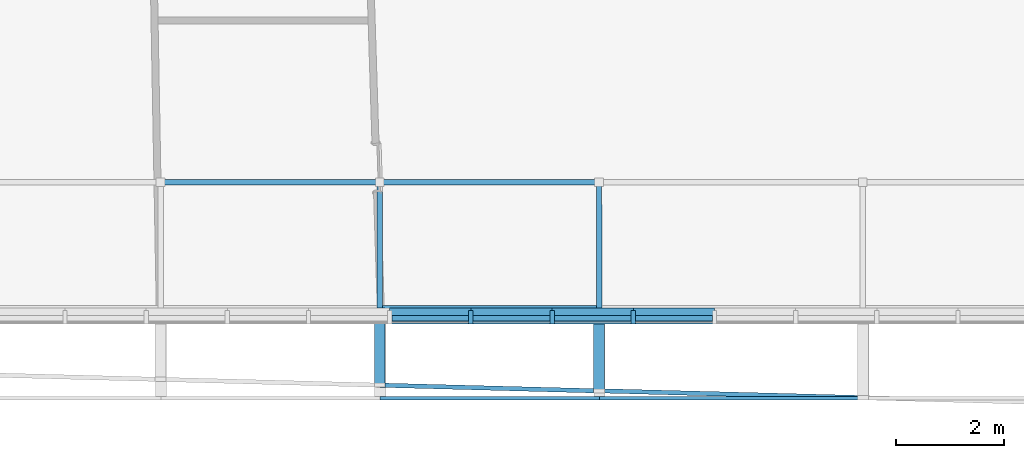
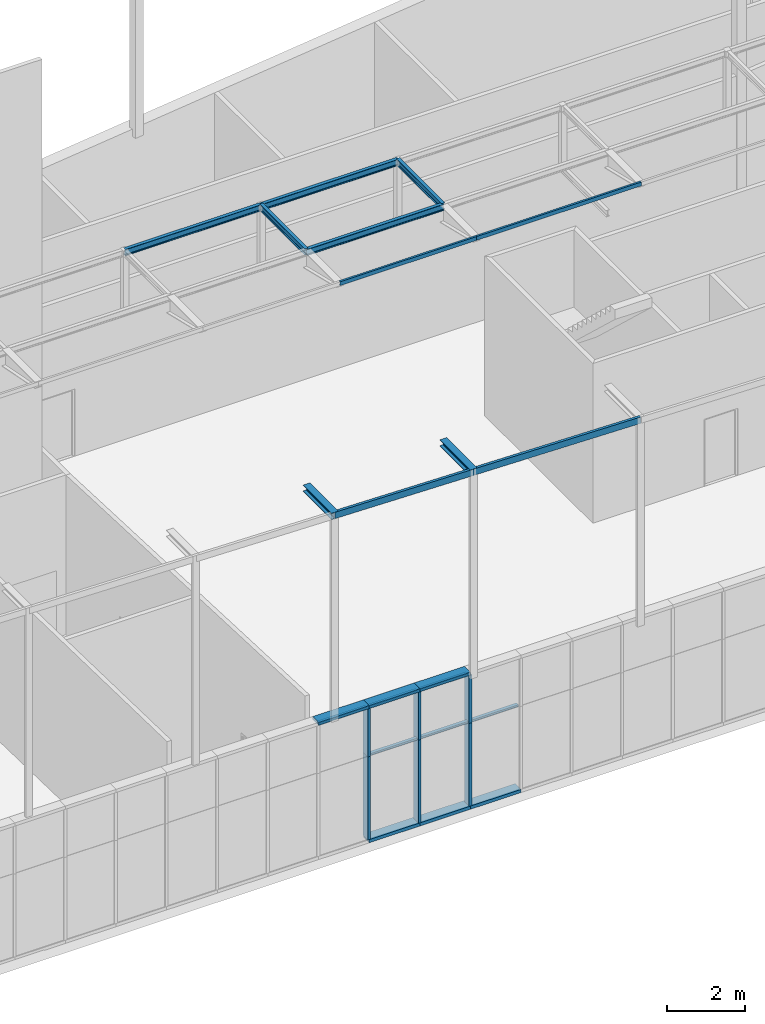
# One storey, part 11 of 40: 18 members, 11 beams, 1 element without a shape of its own.
"""IFC2X3 building model written with IfcOpenShell, lengths in metres."""

from ifc_helpers import new_model, entity, si_unit, converted_unit, money_unit, point, direction, frame, frame_2d, origin_with_axes, place, context, subcontext, project, spatial, polyline, circle_curve, parameter, trimmed, segment, composite_curve, outline, extrude, clip, halfspace, material, type_object, element, aggregate, save


model = new_model("IFC2X3")

# Units and contexts
model_context = context("Model", 3, precision=1e-05, world=origin_with_axes(), true_north=direction((0.0, 1.0)))
body_context = subcontext(model_context, "Body", "Model", "MODEL_VIEW")
ifc_project = project(units=[si_unit("LENGTHUNIT", "METRE"), si_unit("AREAUNIT", "SQUARE_METRE"), si_unit("VOLUMEUNIT", "CUBIC_METRE"), converted_unit("PLANEANGLEUNIT", "DEGREE", entity("IfcPlaneAngleMeasure", 0.0174532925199), si_unit("PLANEANGLEUNIT", "RADIAN"), dimensions=[0, 0, 0, 0, 0, 0, 0]), si_unit("SOLIDANGLEUNIT", "STERADIAN"), money_unit("EUR"), converted_unit("TIMEUNIT", "Year", entity("IfcTimeMeasure", 31556926.0), si_unit("TIMEUNIT", "SECOND"), dimensions=[0, 0, 0, 0, 0, 0, 0]), si_unit("MASSUNIT", "GRAM"), si_unit("THERMODYNAMICTEMPERATUREUNIT", "DEGREE_CELSIUS"), si_unit("LUMINOUSINTENSITYUNIT", "LUMEN")], contexts=[model_context])

# Site, building, storey
site_placement = place(None, origin_with_axes())
site = spatial("IfcSite", under=ifc_project, at=site_placement, Name="Undefined", CompositionType="ELEMENT")
building_placement = place(site_placement, origin_with_axes())
building = spatial("IfcBuilding", under=site, at=building_placement, Name="Undefined", CompositionType="ELEMENT")
storey_placement = place(building_placement, origin_with_axes())
storey = spatial("IfcBuildingStorey", under=building, at=storey_placement, Name="Rez de chauss\x8ee", CompositionType="ELEMENT", Elevation=0.0)

# Beams
ifc_material_1 = material(Name="STEEL/S235JRG2 3386696625")
beam_type_1 = type_object("IfcBeamType", Name="IPE200", PredefinedType="NOTDEFINED")
beam_1_placement = place(storey_placement, frame((33.2999992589, 4.29749319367e-10, 19.02503), z_axis=(0.0, 0.0, 1.0), x_axis=(0.0, -1.0, 0.0)))
element("IfcBeam", 1, at=beam_1_placement, inside=storey, type_object=beam_type_1, material=ifc_material_1, Name="BEAM", ObjectType="BEAM", context=body_context, shape_type="SweptSolid", body=[
    extrude(outline(composite_curve([segment(polyline([(0.05, -0.1), (0.05, -0.0915), (0.0147999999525, -0.0915)]), True, "CONTINUOUS"), segment(trimmed(circle_curve(frame_2d((0.0147999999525, -0.0795), x_axis=(-1.0, 0.0)), 0.012), [point((0.0147999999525, -0.0915)), parameter(90.0)], [point((0.0027999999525, -0.0795)), parameter(0.0)], False, "CARTESIAN"), True, "CONTINUOUS"), segment(polyline([(0.0027999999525, -0.0795), (0.0027999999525, 0.0795)]), True, "CONTINUOUS"), segment(trimmed(circle_curve(frame_2d((0.0147999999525, 0.0795), x_axis=(0.0, 1.0)), 0.012), [point((0.0027999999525, 0.0795)), parameter(90.0)], [point((0.0147999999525, 0.0915)), parameter(0.0)], False, "CARTESIAN"), True, "CONTINUOUS"), segment(polyline([(0.0147999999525, 0.0915), (0.05, 0.0915), (0.05, 0.1), (-0.05, 0.1), (-0.05, 0.0915), (-0.0147999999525, 0.0915)]), True, "CONTINUOUS"), segment(trimmed(circle_curve(frame_2d((-0.0147999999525, 0.0795), x_axis=(1.0, 0.0)), 0.012), [point((-0.0147999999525, 0.0915)), parameter(90.0)], [point((-0.0027999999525, 0.0795)), parameter(0.0)], False, "CARTESIAN"), True, "CONTINUOUS"), segment(polyline([(-0.0027999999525, 0.0795), (-0.0027999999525, -0.0795)]), True, "CONTINUOUS"), segment(trimmed(circle_curve(frame_2d((-0.0147999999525, -0.0795), x_axis=(0.0, -1.0)), 0.012), [point((-0.0027999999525, -0.0795)), parameter(90.0)], [point((-0.0147999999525, -0.0915)), parameter(0.0)], False, "CARTESIAN"), True, "CONTINUOUS"), segment(polyline([(-0.0147999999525, -0.0915), (-0.05, -0.0915), (-0.05, -0.1), (0.05, -0.1)]), True, "CONTINUOUS")], self_intersect=False)), frame((0.0, 4.05, 0.0), z_axis=(0.0, -1.0, 0.0), x_axis=(1.0, 0.0, 0.0)), (0.0, 0.0, 1.0), 4.05),
])
beam_2_placement = place(storey_placement, frame((33.3000000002, 2.3250000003, 19.025), z_axis=(0.0, 0.0, 1.0), x_axis=(0.0, -1.0, 0.0)))
element("IfcBeam", 2, at=beam_2_placement, inside=storey, type_object=beam_type_1, material=ifc_material_1, Name="Poutre", ObjectType="BEAM", context=body_context, shape_type="SweptSolid", body=[
    extrude(outline(composite_curve([segment(polyline([(0.05, -0.1), (0.05, -0.0915), (0.0147999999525, -0.0915)]), True, "CONTINUOUS"), segment(trimmed(circle_curve(frame_2d((0.0147999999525, -0.0795), x_axis=(-1.0, 0.0)), 0.012), [point((0.0147999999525, -0.0915)), parameter(90.0)], [point((0.0027999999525, -0.0795)), parameter(0.0)], False, "CARTESIAN"), True, "CONTINUOUS"), segment(polyline([(0.0027999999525, -0.0795), (0.0027999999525, 0.0795)]), True, "CONTINUOUS"), segment(trimmed(circle_curve(frame_2d((0.0147999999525, 0.0795), x_axis=(0.0, 1.0)), 0.012), [point((0.0027999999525, 0.0795)), parameter(90.0)], [point((0.0147999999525, 0.0915)), parameter(0.0)], False, "CARTESIAN"), True, "CONTINUOUS"), segment(polyline([(0.0147999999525, 0.0915), (0.05, 0.0915), (0.05, 0.1), (-0.05, 0.1), (-0.05, 0.0915), (-0.0147999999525, 0.0915)]), True, "CONTINUOUS"), segment(trimmed(circle_curve(frame_2d((-0.0147999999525, 0.0795), x_axis=(1.0, 0.0)), 0.012), [point((-0.0147999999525, 0.0915)), parameter(90.0)], [point((-0.0027999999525, 0.0795)), parameter(0.0)], False, "CARTESIAN"), True, "CONTINUOUS"), segment(polyline([(-0.0027999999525, 0.0795), (-0.0027999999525, -0.0795)]), True, "CONTINUOUS"), segment(trimmed(circle_curve(frame_2d((-0.0147999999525, -0.0795), x_axis=(0.0, -1.0)), 0.012), [point((-0.0027999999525, -0.0795)), parameter(90.0)], [point((-0.0147999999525, -0.0915)), parameter(0.0)], False, "CARTESIAN"), True, "CONTINUOUS"), segment(polyline([(-0.0147999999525, -0.0915), (-0.05, -0.0915), (-0.05, -0.1), (0.05, -0.1)]), True, "CONTINUOUS")], self_intersect=False)), frame((0.0, 4.04999918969, 0.0), z_axis=(0.0, -1.0, 0.0), x_axis=(1.0, 0.0, 0.0)), (0.0, 0.0, 1.0), 4.04999918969),
])
beam_3_placement = place(storey_placement, frame((33.2999999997, -4.68387313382e-06, 19.02503), z_axis=(0.0, 0.0, 1.0), x_axis=(1.0, 0.0, 0.0)))
element("IfcBeam", 3, at=beam_3_placement, inside=storey, type_object=beam_type_1, material=ifc_material_1, Name="BEAM", ObjectType="BEAM", context=body_context, shape_type="Clipping", body=[
    clip(clip(extrude(outline(composite_curve([segment(polyline([(0.05, -0.1), (0.05, -0.0915), (0.0147999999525, -0.0915)]), True, "CONTINUOUS"), segment(trimmed(circle_curve(frame_2d((0.0147999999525, -0.0795), x_axis=(-1.0, 0.0)), 0.012), [point((0.0147999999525, -0.0915)), parameter(90.0)], [point((0.0027999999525, -0.0795)), parameter(0.0)], False, "CARTESIAN"), True, "CONTINUOUS"), segment(polyline([(0.0027999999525, -0.0795), (0.0027999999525, 0.0795)]), True, "CONTINUOUS"), segment(trimmed(circle_curve(frame_2d((0.0147999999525, 0.0795), x_axis=(0.0, 1.0)), 0.012), [point((0.0027999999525, 0.0795)), parameter(90.0)], [point((0.0147999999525, 0.0915)), parameter(0.0)], False, "CARTESIAN"), True, "CONTINUOUS"), segment(polyline([(0.0147999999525, 0.0915), (0.05, 0.0915), (0.05, 0.1), (-0.05, 0.1), (-0.05, 0.0915), (-0.0147999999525, 0.0915)]), True, "CONTINUOUS"), segment(trimmed(circle_curve(frame_2d((-0.0147999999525, 0.0795), x_axis=(1.0, 0.0)), 0.012), [point((-0.0147999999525, 0.0915)), parameter(90.0)], [point((-0.0027999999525, 0.0795)), parameter(0.0)], False, "CARTESIAN"), True, "CONTINUOUS"), segment(polyline([(-0.0027999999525, 0.0795), (-0.0027999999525, -0.0795)]), True, "CONTINUOUS"), segment(trimmed(circle_curve(frame_2d((-0.0147999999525, -0.0795), x_axis=(0.0, -1.0)), 0.012), [point((-0.0027999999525, -0.0795)), parameter(90.0)], [point((-0.0147999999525, -0.0915)), parameter(0.0)], False, "CARTESIAN"), True, "CONTINUOUS"), segment(polyline([(-0.0147999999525, -0.0915), (-0.05, -0.0915), (-0.05, -0.1), (0.05, -0.1)]), True, "CONTINUOUS")], self_intersect=False)), frame((0.0, 2.32501018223, -2.79001147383e-05), z_axis=(0.0, -0.999999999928, 1.19999967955e-05), x_axis=(1.0, 0.0, 0.0)), (0.0, 0.0, 1.0), 2.32501357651), halfspace(frame((0.0, 3.39411164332e-06, 0.0), z_axis=(0.0, 0.999999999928, -1.19999967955e-05), x_axis=(0.0, 1.19999967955e-05, 0.999999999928)), True)), halfspace(frame((0.0, 2.32500339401, -2.79000332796e-05), z_axis=(0.0, -0.999999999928, 1.19999967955e-05), x_axis=(0.0, -1.19999967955e-05, -0.999999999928)), True)),
])
beam_4_placement = place(storey_placement, frame((29.2499999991, 2.32500000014, 19.025), z_axis=(0.0, 0.0, 1.0), x_axis=(0.0, -1.0, 0.0)))
element("IfcBeam", 4, at=beam_4_placement, inside=storey, type_object=beam_type_1, material=ifc_material_1, Name="Poutre", ObjectType="BEAM", context=body_context, shape_type="SweptSolid", body=[
    extrude(outline(composite_curve([segment(polyline([(0.05, -0.1), (0.05, -0.0915), (0.0147999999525, -0.0915)]), True, "CONTINUOUS"), segment(trimmed(circle_curve(frame_2d((0.0147999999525, -0.0795), x_axis=(-1.0, 0.0)), 0.012), [point((0.0147999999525, -0.0915)), parameter(90.0)], [point((0.0027999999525, -0.0795)), parameter(0.0)], False, "CARTESIAN"), True, "CONTINUOUS"), segment(polyline([(0.0027999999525, -0.0795), (0.0027999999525, 0.0795)]), True, "CONTINUOUS"), segment(trimmed(circle_curve(frame_2d((0.0147999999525, 0.0795), x_axis=(0.0, 1.0)), 0.012), [point((0.0027999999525, 0.0795)), parameter(90.0)], [point((0.0147999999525, 0.0915)), parameter(0.0)], False, "CARTESIAN"), True, "CONTINUOUS"), segment(polyline([(0.0147999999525, 0.0915), (0.05, 0.0915), (0.05, 0.1), (-0.05, 0.1), (-0.05, 0.0915), (-0.0147999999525, 0.0915)]), True, "CONTINUOUS"), segment(trimmed(circle_curve(frame_2d((-0.0147999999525, 0.0795), x_axis=(1.0, 0.0)), 0.012), [point((-0.0147999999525, 0.0915)), parameter(90.0)], [point((-0.0027999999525, 0.0795)), parameter(0.0)], False, "CARTESIAN"), True, "CONTINUOUS"), segment(polyline([(-0.0027999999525, 0.0795), (-0.0027999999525, -0.0795)]), True, "CONTINUOUS"), segment(trimmed(circle_curve(frame_2d((-0.0147999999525, -0.0795), x_axis=(0.0, -1.0)), 0.012), [point((-0.0027999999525, -0.0795)), parameter(90.0)], [point((-0.0147999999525, -0.0915)), parameter(0.0)], False, "CARTESIAN"), True, "CONTINUOUS"), segment(polyline([(-0.0147999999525, -0.0915), (-0.05, -0.0915), (-0.05, -0.1), (0.05, -0.1)]), True, "CONTINUOUS")], self_intersect=False)), frame((0.0, 4.05000000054, 0.0), z_axis=(0.0, -1.0, 0.0), x_axis=(1.0, 0.0, 0.0)), (0.0, 0.0, 1.0), 4.05000000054),
])
beam_5_placement = place(storey_placement, frame((37.3522209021, 0.0, 19.0250000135), z_axis=(0.0, 0.0, 1.0), x_axis=(0.99999954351, 0.000955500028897, 0.0)))
element("IfcBeam", 5, at=beam_5_placement, inside=storey, type_object=beam_type_1, material=ifc_material_1, Name="Poutre", ObjectType="BEAM", context=body_context, shape_type="SweptSolid", body=[
    extrude(outline(composite_curve([segment(polyline([(0.05, -0.1), (0.05, -0.0915), (0.0147999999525, -0.0915)]), True, "CONTINUOUS"), segment(trimmed(circle_curve(frame_2d((0.0147999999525, -0.0795), x_axis=(-1.0, 0.0)), 0.012), [point((0.0147999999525, -0.0915)), parameter(90.0)], [point((0.0027999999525, -0.0795)), parameter(0.0)], False, "CARTESIAN"), True, "CONTINUOUS"), segment(polyline([(0.0027999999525, -0.0795), (0.0027999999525, 0.0795)]), True, "CONTINUOUS"), segment(trimmed(circle_curve(frame_2d((0.0147999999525, 0.0795), x_axis=(0.0, 1.0)), 0.012), [point((0.0027999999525, 0.0795)), parameter(90.0)], [point((0.0147999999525, 0.0915)), parameter(0.0)], False, "CARTESIAN"), True, "CONTINUOUS"), segment(polyline([(0.0147999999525, 0.0915), (0.05, 0.0915), (0.05, 0.1), (-0.05, 0.1), (-0.05, 0.0915), (-0.0147999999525, 0.0915)]), True, "CONTINUOUS"), segment(trimmed(circle_curve(frame_2d((-0.0147999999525, 0.0795), x_axis=(1.0, 0.0)), 0.012), [point((-0.0147999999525, 0.0915)), parameter(90.0)], [point((-0.0027999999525, 0.0795)), parameter(0.0)], False, "CARTESIAN"), True, "CONTINUOUS"), segment(polyline([(-0.0027999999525, 0.0795), (-0.0027999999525, -0.0795)]), True, "CONTINUOUS"), segment(trimmed(circle_curve(frame_2d((-0.0147999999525, -0.0795), x_axis=(0.0, -1.0)), 0.012), [point((-0.0027999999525, -0.0795)), parameter(90.0)], [point((-0.0147999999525, -0.0915)), parameter(0.0)], False, "CARTESIAN"), True, "CONTINUOUS"), segment(polyline([(-0.0147999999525, -0.0915), (-0.05, -0.0915), (-0.05, -0.1), (0.05, -0.1)]), True, "CONTINUOUS")], self_intersect=False)), frame((0.0, 2.32500106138, 0.0), z_axis=(0.0, -1.0, 0.0), x_axis=(1.0, 0.0, 0.0)), (0.0, 0.0, 1.0), 2.32500106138),
])
beam_type_2 = type_object("IfcBeamType", Name="UPE200", PredefinedType="NOTDEFINED")
beam_6_placement = place(storey_placement, frame((33.3010506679, -1.4262630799, 11.65), z_axis=(0.0, 0.0, 1.0), x_axis=(-0.0262667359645, -0.999654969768, 0.0)))
element("IfcBeam", 6, at=beam_6_placement, inside=storey, type_object=beam_type_2, material=ifc_material_1, Name="BEAM", ObjectType="BEAM", context=body_context, shape_type="SweptSolid", body=[
    extrude(outline(composite_curve([segment(polyline([(-0.04, -0.1), (0.04, -0.1), (0.04, -0.089), (-0.021, -0.089)]), True, "CONTINUOUS"), segment(trimmed(circle_curve(frame_2d((-0.021, -0.076), x_axis=(-1.0, 0.0)), 0.013), [point((-0.021, -0.089)), parameter(90.0)], [point((-0.034, -0.076)), parameter(0.0)], False, "CARTESIAN"), True, "CONTINUOUS"), segment(polyline([(-0.034, -0.076), (-0.034, 0.076)]), True, "CONTINUOUS"), segment(trimmed(circle_curve(frame_2d((-0.021, 0.076), x_axis=(0.0, 1.0)), 0.013), [point((-0.034, 0.076)), parameter(90.0)], [point((-0.021, 0.089)), parameter(0.0)], False, "CARTESIAN"), True, "CONTINUOUS"), segment(polyline([(-0.021, 0.089), (0.04, 0.089), (0.04, 0.1), (-0.04, 0.1), (-0.04, -0.1)]), True, "CONTINUOUS")], self_intersect=False)), frame((0.0, 4.05139785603, 0.0), z_axis=(0.0, -1.0, 0.0), x_axis=(-1.0, 0.0, 0.0)), (0.0, 0.0, 1.0), 4.05139785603),
])
beam_7_placement = place(storey_placement, frame((37.3510383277, -1.53020904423, 11.65), z_axis=(0.0, 0.0, 1.0), x_axis=(-0.0258861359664, -0.999664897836, 0.0)))
element("IfcBeam", 7, at=beam_7_placement, inside=storey, type_object=beam_type_2, material=ifc_material_1, Name="BEAM", ObjectType="BEAM", context=body_context, shape_type="SweptSolid", body=[
    extrude(outline(composite_curve([segment(polyline([(-0.04, -0.1), (0.04, -0.1), (0.04, -0.089), (-0.021, -0.089)]), True, "CONTINUOUS"), segment(trimmed(circle_curve(frame_2d((-0.021, -0.076), x_axis=(-1.0, 0.0)), 0.013), [point((-0.021, -0.089)), parameter(90.0)], [point((-0.034, -0.076)), parameter(0.0)], False, "CARTESIAN"), True, "CONTINUOUS"), segment(polyline([(-0.034, -0.076), (-0.034, 0.076)]), True, "CONTINUOUS"), segment(trimmed(circle_curve(frame_2d((-0.021, 0.076), x_axis=(0.0, 1.0)), 0.013), [point((-0.034, 0.076)), parameter(90.0)], [point((-0.021, 0.089)), parameter(0.0)], False, "CARTESIAN"), True, "CONTINUOUS"), segment(polyline([(-0.021, 0.089), (0.04, 0.089), (0.04, 0.1), (-0.04, 0.1), (-0.04, -0.1)]), True, "CONTINUOUS")], self_intersect=False)), frame((0.0, 4.87663417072, 0.0), z_axis=(0.0, -1.0, 0.0), x_axis=(-1.0, 0.0, 0.0)), (0.0, 0.0, 1.0), 4.87663417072),
])
beam_type_3 = type_object("IfcBeamType", Name="UPE120", PredefinedType="NOTDEFINED")
beam_8_placement = place(storey_placement, frame((37.3596818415, -1.67000005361, 19.045), z_axis=(0.0, 0.0, 1.0), x_axis=(0.0, -1.0, 0.0)))
element("IfcBeam", 8, at=beam_8_placement, inside=storey, type_object=beam_type_3, material=ifc_material_1, Name="Poutre", ObjectType="BEAM", context=body_context, shape_type="SweptSolid", body=[
    extrude(outline(composite_curve([segment(polyline([(-0.03, -0.06), (0.03, -0.06), (0.03, -0.052), (-0.013, -0.052)]), True, "CONTINUOUS"), segment(trimmed(circle_curve(frame_2d((-0.013, -0.04), x_axis=(-1.0, 0.0)), 0.012), [point((-0.013, -0.052)), parameter(90.0)], [point((-0.025, -0.04)), parameter(0.0)], False, "CARTESIAN"), True, "CONTINUOUS"), segment(polyline([(-0.025, -0.04), (-0.025, 0.04)]), True, "CONTINUOUS"), segment(trimmed(circle_curve(frame_2d((-0.013, 0.04), x_axis=(0.0, 1.0)), 0.012), [point((-0.025, 0.04)), parameter(90.0)], [point((-0.013, 0.052)), parameter(0.0)], False, "CARTESIAN"), True, "CONTINUOUS"), segment(polyline([(-0.013, 0.052), (0.03, 0.052), (0.03, 0.06), (-0.03, 0.06), (-0.03, -0.06)]), True, "CONTINUOUS")], self_intersect=False)), frame((0.0, 4.875, 0.0), z_axis=(0.0, -1.0, 0.0), x_axis=(-1.0, 0.0, 0.0)), (0.0, 0.0, 1.0), 4.875),
])
beam_9_placement = place(storey_placement, frame((33.3074609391, -1.67000005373, 19.045), z_axis=(0.0, 0.0, 1.0), x_axis=(0.0, -1.0, 0.0)))
element("IfcBeam", 9, at=beam_9_placement, inside=storey, type_object=beam_type_3, material=ifc_material_1, Name="Poutre", ObjectType="BEAM", context=body_context, shape_type="SweptSolid", body=[
    extrude(outline(composite_curve([segment(polyline([(-0.03, -0.06), (0.03, -0.06), (0.03, -0.052), (-0.013, -0.052)]), True, "CONTINUOUS"), segment(trimmed(circle_curve(frame_2d((-0.013, -0.04), x_axis=(-1.0, 0.0)), 0.012), [point((-0.013, -0.052)), parameter(90.0)], [point((-0.025, -0.04)), parameter(0.0)], False, "CARTESIAN"), True, "CONTINUOUS"), segment(polyline([(-0.025, -0.04), (-0.025, 0.04)]), True, "CONTINUOUS"), segment(trimmed(circle_curve(frame_2d((-0.013, 0.04), x_axis=(0.0, 1.0)), 0.012), [point((-0.025, 0.04)), parameter(90.0)], [point((-0.013, 0.052)), parameter(0.0)], False, "CARTESIAN"), True, "CONTINUOUS"), segment(polyline([(-0.013, 0.052), (0.03, 0.052), (0.03, 0.06), (-0.03, 0.06), (-0.03, -0.06)]), True, "CONTINUOUS")], self_intersect=False)), frame((0.0, 4.05222090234, 0.0), z_axis=(0.0, -1.0, 0.0), x_axis=(-1.0, 0.0, 0.0)), (0.0, 0.0, 1.0), 4.05222090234),
])
beam_type_4 = type_object("IfcBeamType", Name="HEB200", PredefinedType="NOTDEFINED")
beam_10_placement = place(storey_placement, frame((37.3499999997, 5.49206680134e-10, 11.65), z_axis=(0.0, 0.0, 1.0), x_axis=(-1.0, 0.0, 0.0)))
element("IfcBeam", 10, at=beam_10_placement, inside=storey, type_object=beam_type_4, material=ifc_material_1, Name="BEAM", ObjectType="BEAM", context=body_context, shape_type="SweptSolid", body=[
    extrude(outline(composite_curve([segment(polyline([(0.1, -0.1), (0.1, -0.085), (0.0225, -0.085)]), True, "CONTINUOUS"), segment(trimmed(circle_curve(frame_2d((0.0225, -0.067), x_axis=(-1.0, 0.0)), 0.018), [point((0.0225, -0.085)), parameter(90.0)], [point((0.0045, -0.067)), parameter(0.0)], False, "CARTESIAN"), True, "CONTINUOUS"), segment(polyline([(0.0045, -0.067), (0.0045, 0.067)]), True, "CONTINUOUS"), segment(trimmed(circle_curve(frame_2d((0.0225, 0.067), x_axis=(0.0, 1.0)), 0.018), [point((0.0045, 0.067)), parameter(90.0)], [point((0.0225, 0.085)), parameter(0.0)], False, "CARTESIAN"), True, "CONTINUOUS"), segment(polyline([(0.0225, 0.085), (0.1, 0.085), (0.1, 0.1), (-0.1, 0.1), (-0.1, 0.085), (-0.0225, 0.085)]), True, "CONTINUOUS"), segment(trimmed(circle_curve(frame_2d((-0.0225, 0.067), x_axis=(1.0, 0.0)), 0.018), [point((-0.0225, 0.085)), parameter(90.0)], [point((-0.0045, 0.067)), parameter(0.0)], False, "CARTESIAN"), True, "CONTINUOUS"), segment(polyline([(-0.0045, 0.067), (-0.0045, -0.067)]), True, "CONTINUOUS"), segment(trimmed(circle_curve(frame_2d((-0.0225, -0.067), x_axis=(0.0, -1.0)), 0.018), [point((-0.0045, -0.067)), parameter(90.0)], [point((-0.0225, -0.085)), parameter(0.0)], False, "CARTESIAN"), True, "CONTINUOUS"), segment(polyline([(-0.0225, -0.085), (-0.1, -0.085), (-0.1, -0.1), (0.1, -0.1)]), True, "CONTINUOUS")], self_intersect=False)), frame((0.0, 1.57068189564, 0.0), z_axis=(0.0, -1.0, 0.0), x_axis=(1.0, 0.0, 0.0)), (0.0, 0.0, 1.0), 1.57068189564),
])
beam_11_placement = place(storey_placement, frame((33.2999999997, 4.30275148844e-10, 11.65), z_axis=(0.0, 0.0, 1.0), x_axis=(-1.0, 0.0, 0.0)))
element("IfcBeam", 11, at=beam_11_placement, inside=storey, type_object=beam_type_4, material=ifc_material_1, Name="BEAM", ObjectType="BEAM", context=body_context, shape_type="SweptSolid", body=[
    extrude(outline(composite_curve([segment(polyline([(0.1, -0.1), (0.1, -0.085), (0.0225, -0.085)]), True, "CONTINUOUS"), segment(trimmed(circle_curve(frame_2d((0.0225, -0.067), x_axis=(-1.0, 0.0)), 0.018), [point((0.0225, -0.085)), parameter(90.0)], [point((0.0045, -0.067)), parameter(0.0)], False, "CARTESIAN"), True, "CONTINUOUS"), segment(polyline([(0.0045, -0.067), (0.0045, 0.067)]), True, "CONTINUOUS"), segment(trimmed(circle_curve(frame_2d((0.0225, 0.067), x_axis=(0.0, 1.0)), 0.018), [point((0.0045, 0.067)), parameter(90.0)], [point((0.0225, 0.085)), parameter(0.0)], False, "CARTESIAN"), True, "CONTINUOUS"), segment(polyline([(0.0225, 0.085), (0.1, 0.085), (0.1, 0.1), (-0.1, 0.1), (-0.1, 0.085), (-0.0225, 0.085)]), True, "CONTINUOUS"), segment(trimmed(circle_curve(frame_2d((-0.0225, 0.067), x_axis=(1.0, 0.0)), 0.018), [point((-0.0225, 0.085)), parameter(90.0)], [point((-0.0045, 0.067)), parameter(0.0)], False, "CARTESIAN"), True, "CONTINUOUS"), segment(polyline([(-0.0045, 0.067), (-0.0045, -0.067)]), True, "CONTINUOUS"), segment(trimmed(circle_curve(frame_2d((-0.0225, -0.067), x_axis=(0.0, -1.0)), 0.018), [point((-0.0045, -0.067)), parameter(90.0)], [point((-0.0225, -0.085)), parameter(0.0)], False, "CARTESIAN"), True, "CONTINUOUS"), segment(polyline([(-0.0225, -0.085), (-0.1, -0.085), (-0.1, -0.1), (0.1, -0.1)]), True, "CONTINUOUS")], self_intersect=False)), frame((0.0, 1.46426489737, 0.0), z_axis=(0.0, -1.0, 0.0), x_axis=(1.0, 0.0, 0.0)), (0.0, 0.0, 1.0), 1.46426489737),
])

# Curtain wall, members
curtain_wall_type = type_object("IfcCurtainWallType", Name="Type de mur-rideau", PredefinedType="NOTDEFINED")
curtain_wall_placement = place(storey_placement, frame((61.0415862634, -0.249999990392, 0.1), z_axis=(0.0, 0.0, 1.0), x_axis=(1.0, 0.0, 0.0)))
curtain_wall = element("IfcCurtainWall", 12, at=curtain_wall_placement, inside=storey, type_object=curtain_wall_type, Name="CurtainWall_02", ObjectType="CURTAIN WALL")
ifc_material_2 = material(Name="25 % 359672764")
member_type_1 = type_object("IfcMemberType", Name="Cadre 100 x 300", PredefinedType="NOTDEFINED")
member_1_placement = place(curtain_wall_placement, frame((-26.0584137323, 4.48379786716e-07, 0.0), z_axis=(1.0, -1.72067183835e-08, 0.0), x_axis=(0.0, 0.0, 1.0)))
member_1 = element("IfcMember", 13, at=member_1_placement, type_object=member_type_1, material=ifc_material_2, Name="Frame-Bnd-922", context=body_context, shape_type="SweptSolid", body=[
    extrude(outline(polyline([(-0.25, -0.1), (0.05, -0.1), (0.05, 0.0), (-0.25, 0.0), (-0.25, -0.1)])), frame((0.0, 0.0, 0.0), z_axis=(0.0, 0.0, 1.0), x_axis=(0.0, 1.0, 0.0)), (0.0, 0.0, 1.0), 1.5),
])
member_2_placement = place(curtain_wall_placement, frame((-24.5584137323, 4.22569709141e-07, 0.0), z_axis=(1.0, -1.7206718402e-08, 0.0), x_axis=(0.0, 0.0, 1.0)))
member_2 = element("IfcMember", 14, at=member_2_placement, type_object=member_type_1, material=ifc_material_2, Name="Frame-Bnd-921", context=body_context, shape_type="SweptSolid", body=[
    extrude(outline(polyline([(-0.25, -0.1), (0.05, -0.1), (0.05, 0.0), (-0.25, 0.0), (-0.25, -0.1)])), frame((0.0, 0.0, 0.0), z_axis=(0.0, 0.0, 1.0), x_axis=(0.0, 1.0, 0.0)), (0.0, 0.0, 1.0), 1.5),
])
member_3_placement = place(curtain_wall_placement, frame((-23.0584137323, 3.96759631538e-07, 0.0), z_axis=(1.0, -1.72067183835e-08, 0.0), x_axis=(0.0, 0.0, 1.0)))
member_3 = element("IfcMember", 15, at=member_3_placement, type_object=member_type_1, material=ifc_material_2, Name="Frame-Bnd-920", context=body_context, shape_type="SweptSolid", body=[
    extrude(outline(polyline([(-0.25, -0.1), (0.05, -0.1), (0.05, 0.0), (-0.25, 0.0), (-0.25, -0.1)])), frame((0.0, 0.0, 0.0), z_axis=(0.0, 0.0, 1.0), x_axis=(0.0, 1.0, 0.0)), (0.0, 0.0, 1.0), 1.5),
])
member_4_placement = place(curtain_wall_placement, frame((-23.0584137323, 3.96759631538e-07, 4.3), z_axis=(-1.0, 1.7206718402e-08, 0.0), x_axis=(0.0, 0.0, -1.0)))
member_4 = element("IfcMember", 16, at=member_4_placement, type_object=member_type_1, material=ifc_material_2, Name="Frame-Bnd-797", context=body_context, shape_type="SweptSolid", body=[
    extrude(outline(polyline([(0.25, 0.1), (-0.05, 0.1), (-0.05, 0.0), (0.25, 0.0), (0.25, 0.1)])), frame((0.0, 0.0, 0.0), z_axis=(0.0, 0.0, 1.0), x_axis=(0.0, -1.0, 0.0)), (0.0, 0.0, 1.0), 1.5),
])
member_5_placement = place(curtain_wall_placement, frame((-24.5584137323, 4.22569709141e-07, 4.3), z_axis=(-1.0, 1.72067183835e-08, 0.0), x_axis=(0.0, 0.0, -1.0)))
member_5 = element("IfcMember", 17, at=member_5_placement, type_object=member_type_1, material=ifc_material_2, Name="Frame-Bnd-796", context=body_context, shape_type="SweptSolid", body=[
    extrude(outline(polyline([(0.25, 0.1), (-0.05, 0.1), (-0.05, 0.0), (0.25, 0.0), (0.25, 0.1)])), frame((0.0, 0.0, 0.0), z_axis=(0.0, 0.0, 1.0), x_axis=(0.0, -1.0, 0.0)), (0.0, 0.0, 1.0), 1.5),
])
member_6_placement = place(curtain_wall_placement, frame((-26.0584137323, 4.48379786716e-07, 4.3), z_axis=(-1.0, 1.72067183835e-08, 0.0), x_axis=(0.0, 0.0, -1.0)))
member_6 = element("IfcMember", 18, at=member_6_placement, type_object=member_type_1, material=ifc_material_2, Name="Frame-Bnd-795", context=body_context, shape_type="SweptSolid", body=[
    extrude(outline(polyline([(0.25, 0.1), (-0.05, 0.1), (-0.05, 0.0), (0.25, 0.0), (0.25, 0.1)])), frame((0.0, 0.0, 0.0), z_axis=(0.0, 0.0, 1.0), x_axis=(0.0, -1.0, 0.0)), (0.0, 0.0, 1.0), 1.5),
])
member_type_2 = type_object("IfcMemberType", Name="Montant 80 x 250", PredefinedType="NOTDEFINED")
member_7_placement = place(curtain_wall_placement, frame((-26.0584137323, 4.48379786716e-07, 0.0), z_axis=(0.0, 0.0, 1.0), x_axis=(-1.0, 1.72067183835e-08, 0.0)))
member_7 = element("IfcMember", 19, at=member_7_placement, type_object=member_type_2, material=ifc_material_2, Name="Frame-Mll-283", context=body_context, shape_type="SweptSolid", body=[
    extrude(outline(polyline([(-0.0399999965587, 0.200000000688), (-0.0400000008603, -0.0499999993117), (0.0399999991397, -0.0500000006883), (0.0400000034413, 0.199999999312), (-0.0399999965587, 0.200000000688)])), frame((0.0, 0.0, 0.1), z_axis=(0.0, 0.0, 1.0), x_axis=(-1.0, -1.72067183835e-08, 0.0)), (0.0, 0.0, 1.0), 2.6),
])
member_8_placement = place(curtain_wall_placement, frame((-24.5584137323, 4.22569709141e-07, 0.0), z_axis=(0.0, 0.0, 1.0), x_axis=(-1.0, 1.72067183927e-08, 0.0)))
member_8 = element("IfcMember", 20, at=member_8_placement, type_object=member_type_2, material=ifc_material_2, Name="Frame-Mll-283", context=body_context, shape_type="SweptSolid", body=[
    extrude(outline(polyline([(-0.0399999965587, 0.200000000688), (-0.0400000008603, -0.0499999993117), (0.0399999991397, -0.0500000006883), (0.0400000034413, 0.199999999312), (-0.0399999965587, 0.200000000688)])), frame((0.0, 0.0, 0.1), z_axis=(0.0, 0.0, 1.0), x_axis=(-1.0, -1.72067183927e-08, 0.0)), (0.0, 0.0, 1.0), 2.6),
])
member_9_placement = place(curtain_wall_placement, frame((-23.0584137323, 3.96759631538e-07, 0.0), z_axis=(0.0, 0.0, 1.0), x_axis=(-1.0, 1.72067183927e-08, 0.0)))
member_9 = element("IfcMember", 21, at=member_9_placement, type_object=member_type_2, material=ifc_material_2, Name="Frame-Mll-283", context=body_context, shape_type="SweptSolid", body=[
    extrude(outline(polyline([(-0.0399999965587, 0.200000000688), (-0.0400000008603, -0.0499999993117), (0.0399999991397, -0.0500000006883), (0.0400000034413, 0.199999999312), (-0.0399999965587, 0.200000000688)])), frame((0.0, 0.0, 0.1), z_axis=(0.0, 0.0, 1.0), x_axis=(-1.0, -1.72067183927e-08, 0.0)), (0.0, 0.0, 1.0), 2.6),
])
member_10_placement = place(curtain_wall_placement, frame((-26.0584137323, 4.48379786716e-07, 2.7), z_axis=(0.0, 0.0, 1.0), x_axis=(-1.0, 1.72067183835e-08, 0.0)))
member_10 = element("IfcMember", 22, at=member_10_placement, type_object=member_type_2, material=ifc_material_2, Name="Frame-Mll-671", context=body_context, shape_type="SweptSolid", body=[
    extrude(outline(polyline([(-0.0399999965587, 0.200000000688), (-0.0400000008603, -0.0499999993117), (0.0399999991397, -0.0500000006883), (0.0400000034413, 0.199999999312), (-0.0399999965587, 0.200000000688)])), frame((0.0, 0.0, 0.0), z_axis=(0.0, 0.0, 1.0), x_axis=(-1.0, -1.72067183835e-08, 0.0)), (0.0, 0.0, 1.0), 1.5),
])
member_11_placement = place(curtain_wall_placement, frame((-24.5584137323, 4.22569709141e-07, 2.7), z_axis=(0.0, 0.0, 1.0), x_axis=(-1.0, 1.72067183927e-08, 0.0)))
member_11 = element("IfcMember", 23, at=member_11_placement, type_object=member_type_2, material=ifc_material_2, Name="Frame-Mll-672", context=body_context, shape_type="SweptSolid", body=[
    extrude(outline(polyline([(-0.0399999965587, 0.200000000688), (-0.0400000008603, -0.0499999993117), (0.0399999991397, -0.0500000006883), (0.0400000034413, 0.199999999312), (-0.0399999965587, 0.200000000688)])), frame((0.0, 0.0, 0.0), z_axis=(0.0, 0.0, 1.0), x_axis=(-1.0, -1.72067183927e-08, 0.0)), (0.0, 0.0, 1.0), 1.5),
])
member_12_placement = place(curtain_wall_placement, frame((-23.0584137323, 3.96759631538e-07, 2.7), z_axis=(0.0, 0.0, 1.0), x_axis=(-1.0, 1.72067183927e-08, 0.0)))
member_12 = element("IfcMember", 24, at=member_12_placement, type_object=member_type_2, material=ifc_material_2, Name="Frame-Mll-673", context=body_context, shape_type="SweptSolid", body=[
    extrude(outline(polyline([(-0.0399999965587, 0.200000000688), (-0.0400000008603, -0.0499999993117), (0.0399999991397, -0.0500000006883), (0.0400000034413, 0.199999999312), (-0.0399999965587, 0.200000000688)])), frame((0.0, 0.0, 0.0), z_axis=(0.0, 0.0, 1.0), x_axis=(-1.0, -1.72067183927e-08, 0.0)), (0.0, 0.0, 1.0), 1.5),
])
member_type_3 = type_object("IfcMemberType", Name="Traverse 60 x 100", PredefinedType="NOTDEFINED")
member_13_placement = place(curtain_wall_placement, frame((-26.0584137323, 4.48379786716e-07, 2.7), z_axis=(1.0, -1.72067183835e-08, 0.0), x_axis=(0.0, 0.0, 1.0)))
member_13 = element("IfcMember", 25, at=member_13_placement, type_object=member_type_3, material=ifc_material_2, Name="Frame-Trs-922", context=body_context, shape_type="SweptSolid", body=[
    extrude(outline(polyline([(-0.11, -0.03), (-0.01, -0.03), (-0.01, 0.03), (-0.11, 0.03), (-0.11, -0.03)])), frame((0.0, 0.0, 0.04), z_axis=(0.0, 0.0, 1.0), x_axis=(0.0, 1.0, 0.0)), (0.0, 0.0, 1.0), 1.42),
])
member_14_placement = place(curtain_wall_placement, frame((-24.5584137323, 4.22569709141e-07, 2.7), z_axis=(1.0, -1.7206718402e-08, 0.0), x_axis=(0.0, 0.0, 1.0)))
member_14 = element("IfcMember", 26, at=member_14_placement, type_object=member_type_3, material=ifc_material_2, Name="Frame-Trs-922", context=body_context, shape_type="SweptSolid", body=[
    extrude(outline(polyline([(-0.11, -0.03), (-0.01, -0.03), (-0.01, 0.03), (-0.11, 0.03), (-0.11, -0.03)])), frame((0.0, 0.0, 0.04), z_axis=(0.0, 0.0, 1.0), x_axis=(0.0, 1.0, 0.0)), (0.0, 0.0, 1.0), 1.42),
])
member_15_placement = place(curtain_wall_placement, frame((-23.0584137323, 3.96759631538e-07, 2.7), z_axis=(1.0, -1.72067183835e-08, 0.0), x_axis=(0.0, 0.0, 1.0)))
member_15 = element("IfcMember", 27, at=member_15_placement, type_object=member_type_3, material=ifc_material_2, Name="Frame-Trs-922", context=body_context, shape_type="SweptSolid", body=[
    extrude(outline(polyline([(-0.11, -0.03), (-0.01, -0.03), (-0.01, 0.03), (-0.11, 0.03), (-0.11, -0.03)])), frame((0.0, 0.0, 0.04), z_axis=(0.0, 0.0, 1.0), x_axis=(0.0, 1.0, 0.0)), (0.0, 0.0, 1.0), 1.42),
])
member_16_placement = place(curtain_wall_placement, frame((-27.5584137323, 4.74189864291e-07, 4.2), z_axis=(1.0, -1.72067183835e-08, 0.0), x_axis=(0.0, 0.0, 1.0)))
member_16 = element("IfcMember", 28, at=member_16_placement, type_object=member_type_3, material=ifc_material_2, Name="Frame-Trs-227", context=body_context, shape_type="SweptSolid", body=[
    extrude(outline(polyline([(-0.11, -0.03), (-0.01, -0.03), (-0.01, 0.03), (-0.11, 0.03), (-0.11, -0.03)])), frame((0.0, 0.0, 0.04), z_axis=(0.0, 0.0, 1.0), x_axis=(0.0, 1.0, 0.0)), (0.0, 0.0, 1.0), 1.42),
])
member_17_placement = place(curtain_wall_placement, frame((-26.0584137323, 4.48379786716e-07, 4.2), z_axis=(1.0, -1.72067183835e-08, 0.0), x_axis=(0.0, 0.0, 1.0)))
member_17 = element("IfcMember", 29, at=member_17_placement, type_object=member_type_3, material=ifc_material_2, Name="Frame-Trs-227", context=body_context, shape_type="SweptSolid", body=[
    extrude(outline(polyline([(-0.11, -0.03), (-0.01, -0.03), (-0.01, 0.03), (-0.11, 0.03), (-0.11, -0.03)])), frame((0.0, 0.0, 0.04), z_axis=(0.0, 0.0, 1.0), x_axis=(0.0, 1.0, 0.0)), (0.0, 0.0, 1.0), 1.42),
])
member_18_placement = place(curtain_wall_placement, frame((-24.5584137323, 4.22569709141e-07, 4.2), z_axis=(1.0, -1.7206718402e-08, 0.0), x_axis=(0.0, 0.0, 1.0)))
member_18 = element("IfcMember", 30, at=member_18_placement, type_object=member_type_3, material=ifc_material_2, Name="Frame-Trs-227", context=body_context, shape_type="SweptSolid", body=[
    extrude(outline(polyline([(-0.11, -0.03), (-0.01, -0.03), (-0.01, 0.03), (-0.11, 0.03), (-0.11, -0.03)])), frame((0.0, 0.0, 0.04), z_axis=(0.0, 0.0, 1.0), x_axis=(0.0, 1.0, 0.0)), (0.0, 0.0, 1.0), 1.42),
])
aggregate(curtain_wall, [member_1, member_2, member_3, member_7, member_8, member_9, member_13, member_14, member_15, member_10, member_11, member_12, member_16, member_17, member_18, member_4, member_5, member_6])

save(model, "model.ifc")
